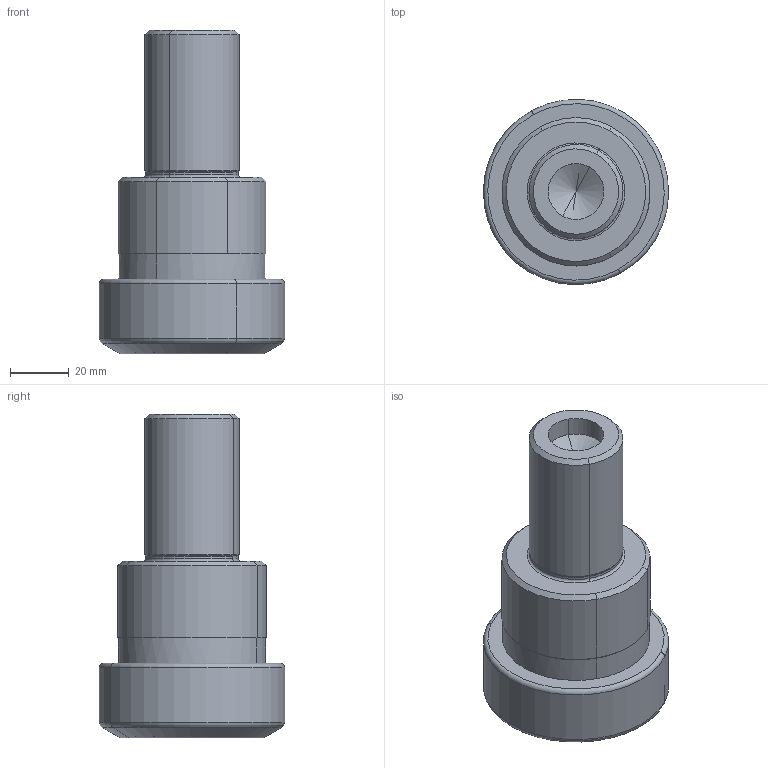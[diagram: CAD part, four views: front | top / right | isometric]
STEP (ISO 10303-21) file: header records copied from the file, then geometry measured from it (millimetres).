
FILE_DESCRIPTION(('CATIA V5 STEP','CAx-IF Rec.Pracs.--- Model Styling and Organization---1.2---2011-12-15'),'2;1');
FILE_NAME('\\nas01\drv1\utils\eitdev\rte\eit\transmagicconvert\db\out\635964855423977430\4508007-L-M.stp','2016-04-17T07:25:54+00:00',('none'),('none'),'CATIA Version 5 Release 21 SP 5 (IN-10)','CATIA V5 STEP AP214','none');
FILE_SCHEMA(('AUTOMOTIVE_DESIGN { 1 0 10303 214 1 1 1 1 }'));
Length unit declared in the file: millimetre
Products named in the file (1): ST 32X 50 ER40 F
Bounding box: 62.98 x 62.98 x 110 mm (x, y, z)
Volume: 127247.5 mm3; surface area: 27248.1 mm2
Topology: 1 solids, 1 shells, 55 faces, 120 edges, 68 vertices
Faces by surface type: cylinder 16, cone 14, torus 10, revolution 8, plane 7
Entity records: 1369 total; most frequent: CARTESIAN_POINT 274, ORIENTED_EDGE 232, DIRECTION 172, EDGE_CURVE 116, AXIS2_PLACEMENT_3D 104, CIRCLE 74, VERTEX_POINT 68, EDGE_LOOP 60
